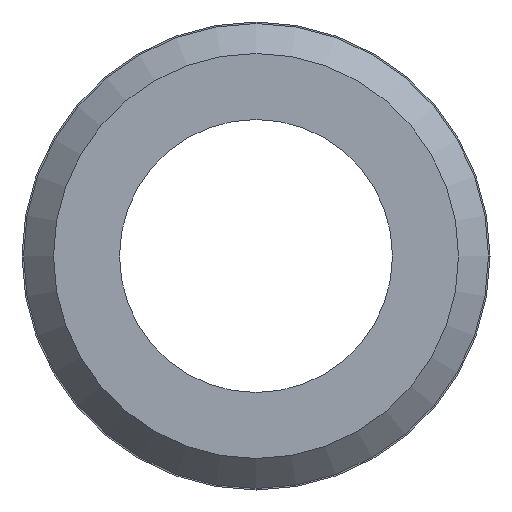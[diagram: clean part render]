
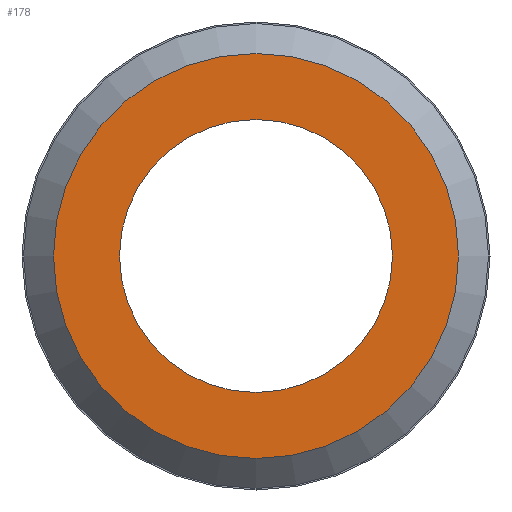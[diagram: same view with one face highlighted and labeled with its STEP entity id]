
A CAD part, front view. The second image highlights one B-rep face of the part: STEP entity #178.
In plain terms, the highlighted planar face has unit normal (0, -1, 0).
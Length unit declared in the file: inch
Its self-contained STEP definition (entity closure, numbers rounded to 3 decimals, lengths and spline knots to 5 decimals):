
#16=FACE_BOUND('',#44,.T.);
#20=PLANE('',#214);
#32=FACE_OUTER_BOUND('',#43,.T.);
#43=EDGE_LOOP('',(#148));
#44=EDGE_LOOP('',(#149,#150));
#70=CIRCLE('',#208,0.135);
#75=CIRCLE('',#215,0.091);
#76=CIRCLE('',#216,0.091);
#88=VERTEX_POINT('',#310);
#93=VERTEX_POINT('',#324);
#94=VERTEX_POINT('',#325);
#108=EDGE_CURVE('',#88,#88,#70,.T.);
#115=EDGE_CURVE('',#93,#94,#75,.T.);
#116=EDGE_CURVE('',#94,#93,#76,.T.);
#148=ORIENTED_EDGE('',*,*,#108,.F.);
#149=ORIENTED_EDGE('',*,*,#115,.F.);
#150=ORIENTED_EDGE('',*,*,#116,.F.);
#178=ADVANCED_FACE('',(#32,#16),#20,.T.);
#208=AXIS2_PLACEMENT_3D('',#311,#251,#252);
#214=AXIS2_PLACEMENT_3D('',#323,#265,#266);
#215=AXIS2_PLACEMENT_3D('',#326,#267,#268);
#216=AXIS2_PLACEMENT_3D('',#327,#269,#270);
#251=DIRECTION('center_axis',(0.,1.,0.));
#252=DIRECTION('ref_axis',(0.,0.,1.));
#265=DIRECTION('center_axis',(0.,-1.,0.));
#266=DIRECTION('ref_axis',(0.,0.,-1.));
#267=DIRECTION('center_axis',(0.,-1.,0.));
#268=DIRECTION('ref_axis',(1.,0.,0.));
#269=DIRECTION('center_axis',(0.,-1.,0.));
#270=DIRECTION('ref_axis',(1.,0.,0.));
#310=CARTESIAN_POINT('',(0.,0.,-0.135));
#311=CARTESIAN_POINT('Origin',(0.,0.,0.));
#323=CARTESIAN_POINT('Origin',(0.,0.,-0.091));
#324=CARTESIAN_POINT('',(0.,0.,-0.091));
#325=CARTESIAN_POINT('',(0.,0.,0.091));
#326=CARTESIAN_POINT('Origin',(0.,0.,0.));
#327=CARTESIAN_POINT('Origin',(0.,0.,0.));
